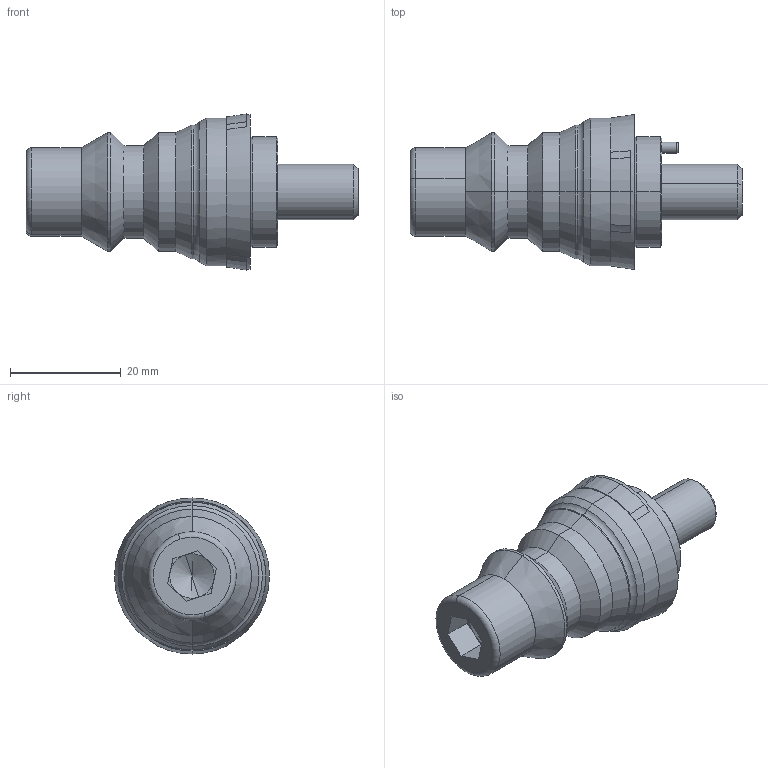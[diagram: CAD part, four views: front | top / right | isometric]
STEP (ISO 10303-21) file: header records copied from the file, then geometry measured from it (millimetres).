
FILE_DESCRIPTION (( 'STEP AP203' ), '1' );
FILE_NAME ('10S隅砃嶺隊.STEP', '2021-08-19T05:28:24', ( 'set' ), ( '' ), 'SwSTEP 2.0', 'SolidWorks 2018', '' );
FILE_SCHEMA (( 'CONFIG_CONTROL_DESIGN' ));
Length unit declared in the file: millimetre
Products named in the file (1): 10S隅砃嶺隊
Bounding box: 60 x 28.02 x 28.2 mm (x, y, z)
Volume: 16160.3 mm3; surface area: 7071.5 mm2
Topology: 3 solids, 3 shells, 244 faces, 618 edges, 390 vertices
Faces by surface type: plane 108, bspline 66, cone 38, cylinder 20, torus 12
Entity records: 10121 total; most frequent: CARTESIAN_POINT 4583, ORIENTED_EDGE 1228, DIRECTION 946, EDGE_CURVE 614, VERTEX_POINT 390, LINE 368, VECTOR 368, AXIS2_PLACEMENT_3D 289
